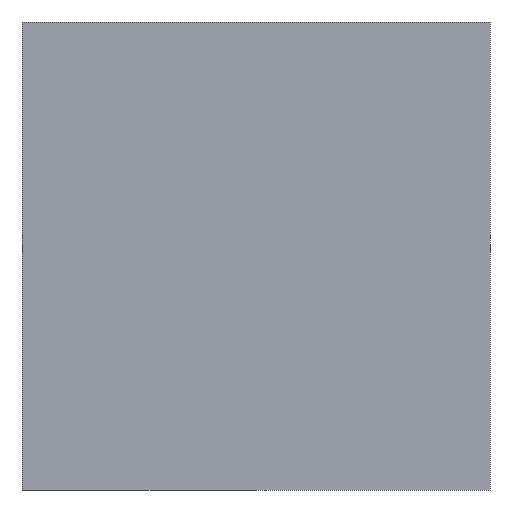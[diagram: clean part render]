
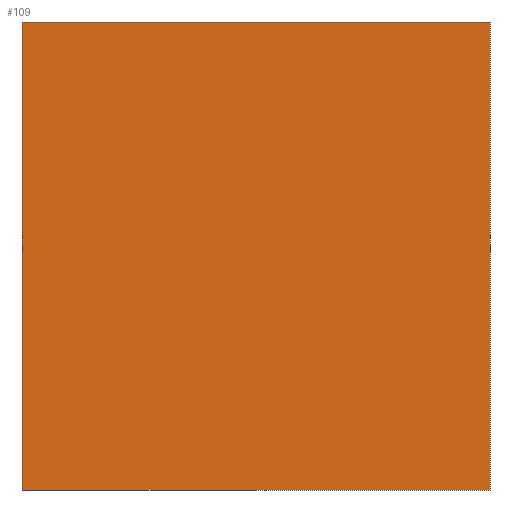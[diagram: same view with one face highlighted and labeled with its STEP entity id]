
A CAD part, left-side view. The second image highlights one B-rep face of the part: STEP entity #109.
In plain terms, the highlighted planar face has unit normal (-1, 0, 0).
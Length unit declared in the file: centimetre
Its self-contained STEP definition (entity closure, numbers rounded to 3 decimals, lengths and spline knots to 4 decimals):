
#5 = VECTOR ( 'NONE', #182, 100. ) ;
#20 = EDGE_CURVE ( 'NONE', #237, #442, #201, .T. ) ;
#35 = CARTESIAN_POINT ( 'NONE',  ( 0., 1000., 1000. ) ) ;
#38 = DIRECTION ( 'NONE',  ( 0., -1., 0. ) ) ;
#67 = ORIENTED_EDGE ( 'NONE', *, *, #105, .F. ) ;
#76 = CARTESIAN_POINT ( 'NONE',  ( 0., 1000., 1000. ) ) ;
#89 = VECTOR ( 'NONE', #38, 100. ) ;
#92 = CARTESIAN_POINT ( 'NONE',  ( 0., 1000., 1000. ) ) ;
#102 = ORIENTED_EDGE ( 'NONE', *, *, #172, .F. ) ;
#103 = VECTOR ( 'NONE', #301, 100. ) ;
#105 = EDGE_CURVE ( 'NONE', #253, #442, #243, .T. ) ;
#108 = DIRECTION ( 'NONE',  ( 0., 0., -1. ) ) ;
#109 = ADVANCED_FACE ( 'NONE', ( #177 ), #174, .F. ) ;
#117 = VECTOR ( 'NONE', #108, 100. ) ;
#133 = CARTESIAN_POINT ( 'NONE',  ( 0., 1000., 0. ) ) ;
#167 = CARTESIAN_POINT ( 'NONE',  ( 0., 1000., 0. ) ) ;
#172 = EDGE_CURVE ( 'NONE', #247, #253, #272, .T. ) ;
#174 = PLANE ( 'NONE',  #433 ) ;
#177 = FACE_OUTER_BOUND ( 'NONE', #402, .T. ) ;
#180 = DIRECTION ( 'NONE',  ( 0., 0., -1. ) ) ;
#182 = DIRECTION ( 'NONE',  ( 0., 0., -1. ) ) ;
#193 = EDGE_CURVE ( 'NONE', #247, #237, #390, .T. ) ;
#201 = LINE ( 'NONE', #167, #103 ) ;
#237 = VERTEX_POINT ( 'NONE', #133 ) ;
#240 = DIRECTION ( 'NONE',  ( 1., 0., 0. ) ) ;
#243 = LINE ( 'NONE', #412, #5 ) ;
#247 = VERTEX_POINT ( 'NONE', #92 ) ;
#253 = VERTEX_POINT ( 'NONE', #298 ) ;
#272 = LINE ( 'NONE', #347, #89 ) ;
#298 = CARTESIAN_POINT ( 'NONE',  ( 0., 0., 1000. ) ) ;
#301 = DIRECTION ( 'NONE',  ( 0., -1., 0. ) ) ;
#306 = ORIENTED_EDGE ( 'NONE', *, *, #193, .T. ) ;
#347 = CARTESIAN_POINT ( 'NONE',  ( 0., 1000., 1000. ) ) ;
#389 = CARTESIAN_POINT ( 'NONE',  ( 0., 0., 0. ) ) ;
#390 = LINE ( 'NONE', #76, #117 ) ;
#402 = EDGE_LOOP ( 'NONE', ( #435, #67, #102, #306 ) ) ;
#412 = CARTESIAN_POINT ( 'NONE',  ( 0., 0., 1000. ) ) ;
#433 = AXIS2_PLACEMENT_3D ( 'NONE', #35, #240, #180 ) ;
#435 = ORIENTED_EDGE ( 'NONE', *, *, #20, .T. ) ;
#442 = VERTEX_POINT ( 'NONE', #389 ) ;
